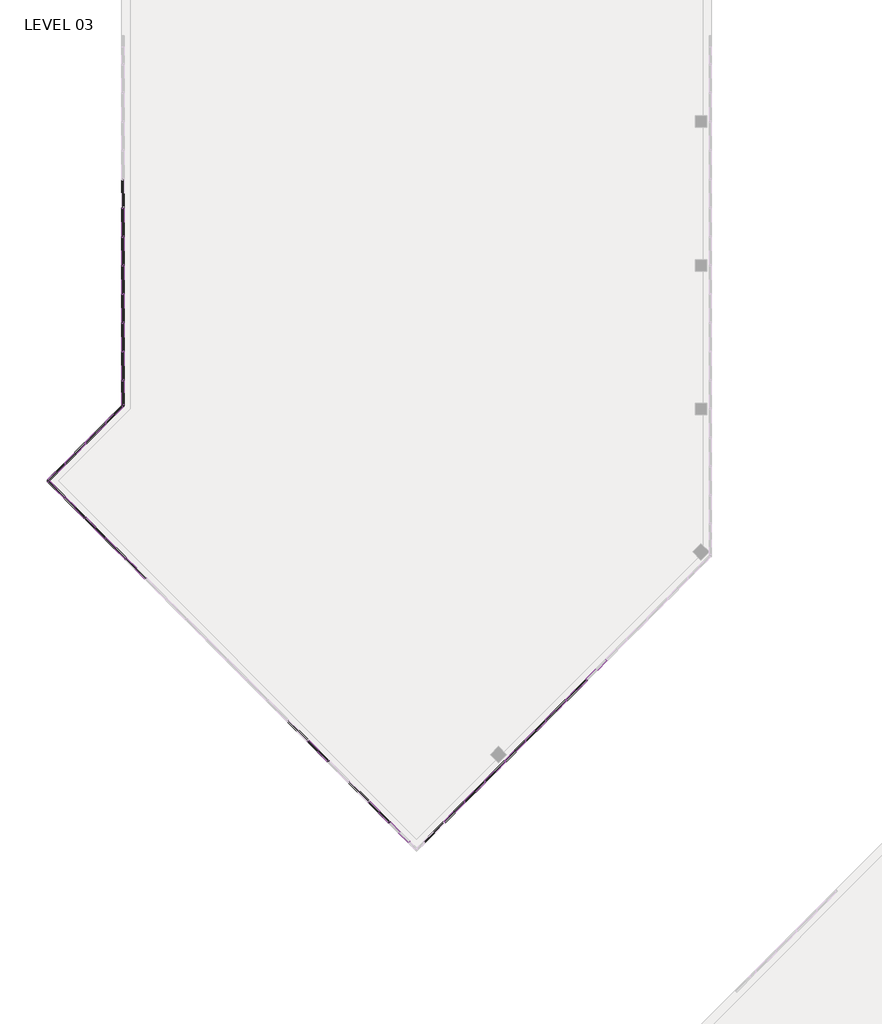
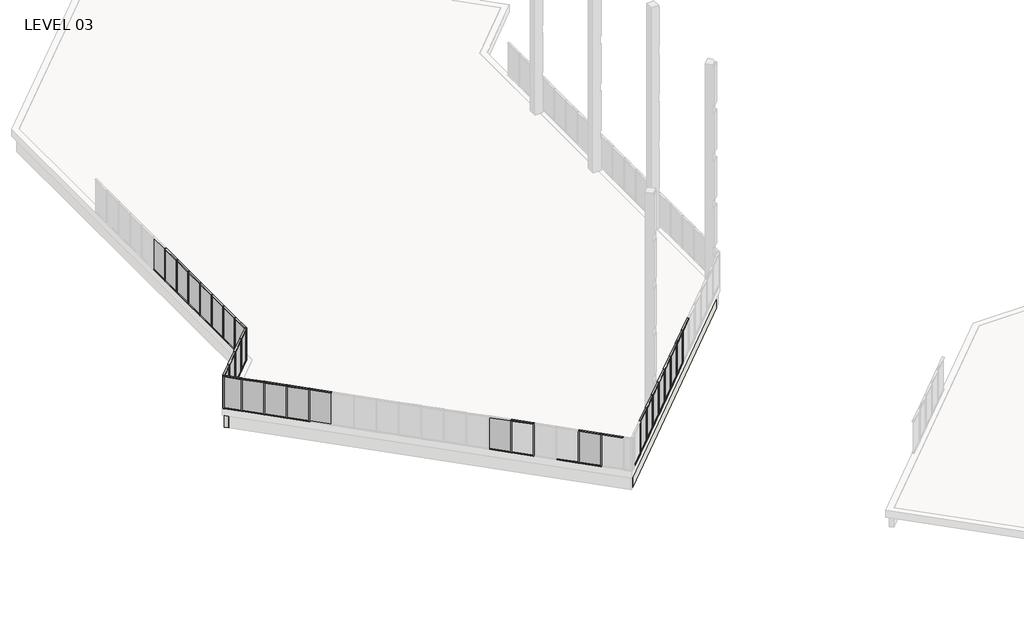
# One storey, part 3 of 18: 85 members, 26 plates, 2 walls.
"""IFC4 building model written with IfcOpenShell, lengths in millimetres."""

from ifc_helpers import new_model, si_unit, origin, place, context, project, spatial, faceted_brep, transform, mapped, element, save
from components import member_5247f267, member_e44af9ab, member_800970d4, member_45eb7f2e, member_53409b32, member_43bac76b, member_0b71a88d, plate_67294edd, plate_aaac5d3d, plate_048e4634, plate_9c66726c, plate_e0fd5134, plate_15429445, plate_0d1907f3, plate_903242d9

model = new_model("IFC4")

# Units and contexts
model_context = context("Model", 3, world=origin())
ifc_project = project(units=[si_unit("LENGTHUNIT", "METRE", prefix="MILLI")], contexts=[model_context])

# Site, building, storey
site = spatial("IfcSite", under=ifc_project)
building = spatial("IfcBuilding", under=site)
storey = spatial("IfcBuildingStorey", under=building, Name="LEVEL 03", Elevation=8280.4)

# Members
placement = place(None, origin())
member_shape = member_5247f267(model_context)
element("IfcMember", 1, ObjectType="Rectangular Mullion : 2\" x 4.5\" rectangular", at=placement, inside=storey, context=model_context, shape_type="MappedRepresentation", body=[
    mapped(member_shape, transform((-8176.5824051, 31737.5637642, 10871.2), x_axis=(0.0, 0.0, 1.0), y_axis=(-0.7071067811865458, 0.7071067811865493, 0.0), z_axis=(-0.7071067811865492, -0.7071067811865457, 0.0))),
])
element("IfcMember", 2, ObjectType="Rectangular Mullion : 2\" x 4.5\" rectangular", at=placement, inside=storey, context=model_context, shape_type="MappedRepresentation", body=[
    mapped(member_shape, transform((-9254.1983379, 30659.9478314, 10871.2), x_axis=(0.0, 0.0, 1.0), y_axis=(-0.7071067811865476, 0.7071067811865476, 0.0), z_axis=(-0.7071067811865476, -0.7071067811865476, 0.0))),
])
element("IfcMember", 3, ObjectType="Rectangular Mullion : 2\" x 4.5\" rectangular", at=placement, inside=storey, context=model_context, shape_type="MappedRepresentation", body=[
    mapped(member_shape, transform((-10331.8142707, 29582.3318986, 10871.2), x_axis=(0.0, 0.0, 1.0), y_axis=(-0.7071067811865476, 0.7071067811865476, 0.0), z_axis=(-0.7071067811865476, -0.7071067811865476, 0.0))),
])
element("IfcMember", 4, ObjectType="Rectangular Mullion : 2\" x 4.5\" rectangular", at=placement, inside=storey, context=model_context, shape_type="MappedRepresentation", body=[
    mapped(member_shape, transform((-11409.4302035, 28504.7159658, 10871.2), x_axis=(0.0, 0.0, 1.0), y_axis=(-0.7071067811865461, 0.707106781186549, 0.0), z_axis=(-0.707106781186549, -0.7071067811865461, 0.0))),
])
element("IfcMember", 5, ObjectType="Rectangular Mullion : 2\" x 4.5\" rectangular", at=placement, inside=storey, context=model_context, shape_type="MappedRepresentation", body=[
    mapped(member_shape, transform((-13564.6768709, 26349.4692984, 10871.2), x_axis=(0.0, 0.0, 1.0), y_axis=(-0.7071067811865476, 0.7071067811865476, 0.0), z_axis=(-0.7071067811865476, -0.7071067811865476, 0.0))),
])
element("IfcMember", 6, ObjectType="Rectangular Mullion : 2\" x 4.5\" rectangular", at=placement, inside=storey, context=model_context, shape_type="MappedRepresentation", body=[
    mapped(member_shape, transform((-19717.6908029, 25235.9175394, 10871.2), x_axis=(0.0, 0.0, 1.0), y_axis=(0.7071067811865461, 0.7071067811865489, 0.0), z_axis=(-0.7071067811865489, 0.7071067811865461, 0.0))),
])
element("IfcMember", 7, ObjectType="Rectangular Mullion : 2\" x 4.5\" rectangular", at=placement, inside=storey, context=model_context, shape_type="MappedRepresentation", body=[
    mapped(member_shape, transform((-22950.547272, 28468.7740085, 10871.2), x_axis=(0.0, 0.0, 1.0), y_axis=(0.7071067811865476, 0.7071067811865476, 0.0), z_axis=(-0.7071067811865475, 0.7071067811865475, 0.0))),
])
element("IfcMember", 8, ObjectType="Rectangular Mullion : 2\" x 4.5\" rectangular", at=placement, inside=storey, context=model_context, shape_type="MappedRepresentation", body=[
    mapped(member_shape, transform((-34789.2847655, 44248.423675, 10871.2), x_axis=(0.0, 0.0, 1.0), y_axis=(0.7071067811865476, -0.7071067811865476, 0.0), z_axis=(0.7071067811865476, 0.7071067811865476, 0.0))),
])
element("IfcMember", 9, ObjectType="Rectangular Mullion : 2\" x 4.5\" rectangular", at=placement, inside=storey, context=model_context, shape_type="MappedRepresentation", body=[
    mapped(member_shape, transform((-33711.654031, 45326.0544096, 10871.2), x_axis=(0.0, 0.0, 1.0), y_axis=(0.7071067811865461, -0.707106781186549, 0.0), z_axis=(0.7071067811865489, 0.707106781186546, 0.0))),
])
element("IfcMember", 10, ObjectType="Rectangular Mullion : 2\" x 4.5\" rectangular", at=placement, inside=storey, context=model_context, shape_type="MappedRepresentation", body=[
    mapped(member_shape, transform((-32784.0347164, 49110.5675885, 10871.2), x_axis=(0.0, 0.0, 1.0), y_axis=(1.0, 0.0, 0.0), z_axis=(0.0, 1.0, 0.0))),
])
element("IfcMember", 11, ObjectType="Rectangular Mullion : 2\" x 4.5\" rectangular", at=placement, inside=storey, context=model_context, shape_type="MappedRepresentation", body=[
    mapped(member_shape, transform((-32784.0347164, 50634.5675885, 10871.2), x_axis=(0.0, 0.0, 1.0), y_axis=(1.0, 0.0, 0.0), z_axis=(0.0, 1.0, 0.0))),
])
element("IfcMember", 12, ObjectType="Rectangular Mullion : 2\" x 4.5\" rectangular", at=placement, inside=storey, context=model_context, shape_type="MappedRepresentation", body=[
    mapped(member_shape, transform((-32784.0347164, 56730.5675885, 10871.2), x_axis=(0.0, 0.0, 1.0), y_axis=(1.0, 0.0, 0.0), z_axis=(0.0, 1.0, 0.0))),
])
element("IfcMember", 13, ObjectType="Rectangular Mullion : 2\" x 4.5\" rectangular", at=placement, inside=storey, context=model_context, shape_type="MappedRepresentation", body=[
    mapped(member_shape, transform((-32784.0347164, 52158.5675885, 10871.2), x_axis=(0.0, 0.0, 1.0), y_axis=(1.0, 0.0, 0.0), z_axis=(0.0, 1.0, 0.0))),
])
element("IfcMember", 14, ObjectType="Rectangular Mullion : 2\" x 4.5\" rectangular", at=placement, inside=storey, context=model_context, shape_type="MappedRepresentation", body=[
    mapped(member_shape, transform((-32784.0347164, 55206.5675885, 10871.2), x_axis=(0.0, 0.0, 1.0), y_axis=(1.0, 0.0, 0.0), z_axis=(0.0, 1.0, 0.0))),
])
element("IfcMember", 15, ObjectType="Rectangular Mullion : 2\" x 4.5\" rectangular", at=placement, inside=storey, context=model_context, shape_type="MappedRepresentation", body=[
    mapped(member_shape, transform((-32784.0347164, 53682.5675885, 10871.2), x_axis=(0.0, 0.0, 1.0), y_axis=(1.0, 0.0, 0.0), z_axis=(0.0, 1.0, 0.0))),
])
element("IfcMember", 16, ObjectType="Rectangular Mullion : 2\" x 4.5\" rectangular", at=placement, inside=storey, context=model_context, shape_type="MappedRepresentation", body=[
    mapped(member_shape, transform((-12487.0535372, 27427.0926321, 10871.2), x_axis=(0.0, 0.0, 1.0), y_axis=(-0.7071067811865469, 0.7071067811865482, 0.0), z_axis=(-0.7071067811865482, -0.7071067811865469, 0.0))),
])
element("IfcMember", 17, ObjectType="Rectangular Mullion : 2\" x 4.5\" rectangular", at=placement, inside=storey, context=model_context, shape_type="MappedRepresentation", body=[
    mapped(member_shape, transform((-14642.3076054, 25271.8385639, 10871.2), x_axis=(0.0, 0.0, 1.0), y_axis=(-0.7071067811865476, 0.7071067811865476, 0.0), z_axis=(-0.7071067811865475, -0.7071067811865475, 0.0))),
])
element("IfcMember", 18, ObjectType="Rectangular Mullion : 2\" x 4.5\" rectangular", at=placement, inside=storey, context=model_context, shape_type="MappedRepresentation", body=[
    mapped(member_shape, transform((-15719.9383399, 24194.2078294, 10871.2), x_axis=(0.0, 0.0, 1.0), y_axis=(-0.7071067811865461, 0.7071067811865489, 0.0), z_axis=(-0.7071067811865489, -0.7071067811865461, 0.0))),
])
element("IfcMember", 19, ObjectType="Rectangular Mullion : 2\" x 4.5\" rectangular", at=placement, inside=storey, context=model_context, shape_type="MappedRepresentation", body=[
    mapped(member_shape, transform((-18640.0600684, 24158.2868049, 10871.2), x_axis=(0.0, 0.0, 1.0), y_axis=(0.7071067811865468, 0.7071067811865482, 0.0), z_axis=(-0.7071067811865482, 0.7071067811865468, 0.0))),
])
element("IfcMember", 20, ObjectType="Rectangular Mullion : 2\" x 4.5\" rectangular", at=placement, inside=storey, context=model_context, shape_type="MappedRepresentation", body=[
    mapped(member_shape, transform((-32625.1316457, 38143.3583822, 10871.2), x_axis=(0.0, 0.0, 1.0), y_axis=(0.7071067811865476, 0.7071067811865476, 0.0), z_axis=(-0.7071067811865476, 0.7071067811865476, 0.0))),
])
element("IfcMember", 21, ObjectType="Rectangular Mullion : 2\" x 4.5\" rectangular", at=placement, inside=storey, context=model_context, shape_type="MappedRepresentation", body=[
    mapped(member_shape, transform((-33702.7623802, 39220.9891167, 10871.2), x_axis=(0.0, 0.0, 1.0), y_axis=(0.7071067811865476, 0.7071067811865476, 0.0), z_axis=(-0.7071067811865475, 0.7071067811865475, 0.0))),
])
element("IfcMember", 22, ObjectType="Rectangular Mullion : 2\" x 4.5\" rectangular", at=placement, inside=storey, context=model_context, shape_type="MappedRepresentation", body=[
    mapped(member_shape, transform((-34780.3931147, 40298.6198512, 10871.2), x_axis=(0.0, 0.0, 1.0), y_axis=(0.7071067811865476, 0.7071067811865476, 0.0), z_axis=(-0.7071067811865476, 0.7071067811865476, 0.0))),
])
element("IfcMember", 23, ObjectType="Rectangular Mullion : 2\" x 4.5\" rectangular", at=placement, inside=storey, context=model_context, shape_type="MappedRepresentation", body=[
    mapped(member_shape, transform((-35858.0238493, 41376.2505858, 10871.2), x_axis=(0.0, 0.0, 1.0), y_axis=(0.7071067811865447, 0.7071067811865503, 0.0), z_axis=(-0.7071067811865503, 0.7071067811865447, 0.0))),
])
element("IfcMember", 24, ObjectType="Rectangular Mullion : 2\" x 4.5\" rectangular", at=placement, inside=storey, context=model_context, shape_type="MappedRepresentation", body=[
    mapped(member_shape, transform((-8212.5034296, 31701.6427397, 8280.4), x_axis=(0.0, 0.0, -1.0), y_axis=(-0.7071067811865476, 0.7071067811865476, 0.0), z_axis=(0.7071067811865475, 0.7071067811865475, 0.0))),
])
element("IfcMember", 25, ObjectType="Rectangular Mullion : 2\" x 4.5\" rectangular", at=placement, inside=storey, context=model_context, shape_type="MappedRepresentation", body=[
    mapped(member_shape, transform((-9290.1193624, 30624.0268069, 8280.4), x_axis=(0.0, 0.0, -1.0), y_axis=(-0.7071067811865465, 0.7071067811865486, 0.0), z_axis=(0.7071067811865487, 0.7071067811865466, 0.0))),
])
element("IfcMember", 26, ObjectType="Rectangular Mullion : 2\" x 4.5\" rectangular", at=placement, inside=storey, context=model_context, shape_type="MappedRepresentation", body=[
    mapped(member_shape, transform((-10367.7352952, 29546.4108741, 8280.4), x_axis=(0.0, 0.0, -1.0), y_axis=(-0.7071067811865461, 0.707106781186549, 0.0), z_axis=(0.707106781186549, 0.7071067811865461, 0.0))),
])
element("IfcMember", 27, ObjectType="Rectangular Mullion : 2\" x 4.5\" rectangular", at=placement, inside=storey, context=model_context, shape_type="MappedRepresentation", body=[
    mapped(member_shape, transform((-11445.351228, 28468.7949413, 8280.4), x_axis=(0.0, 0.0, -1.0), y_axis=(-0.7071067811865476, 0.7071067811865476, 0.0), z_axis=(0.7071067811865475, 0.7071067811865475, 0.0))),
])
element("IfcMember", 28, ObjectType="Rectangular Mullion : 2\" x 4.5\" rectangular", at=placement, inside=storey, context=model_context, shape_type="MappedRepresentation", body=[
    mapped(member_shape, transform((-13600.5978954, 26313.5482739, 8280.4), x_axis=(0.0, 0.0, -1.0), y_axis=(-0.7071067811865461, 0.7071067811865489, 0.0), z_axis=(0.7071067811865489, 0.7071067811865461, 0.0))),
])
element("IfcMember", 29, ObjectType="Rectangular Mullion : 2\" x 4.5\" rectangular", at=placement, inside=storey, context=model_context, shape_type="MappedRepresentation", body=[
    mapped(member_shape, transform((-19753.6118274, 25271.8385639, 8280.4), x_axis=(0.0, 0.0, -1.0), y_axis=(0.7071067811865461, 0.707106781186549, 0.0), z_axis=(0.7071067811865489, -0.707106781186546, 0.0))),
])
element("IfcMember", 30, ObjectType="Rectangular Mullion : 2\" x 4.5\" rectangular", at=placement, inside=storey, context=model_context, shape_type="MappedRepresentation", body=[
    mapped(member_shape, transform((-22986.4682965, 28504.6950329, 8280.4), x_axis=(0.0, 0.0, -1.0), y_axis=(0.7071067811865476, 0.7071067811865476, 0.0), z_axis=(0.7071067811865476, -0.7071067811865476, 0.0))),
])
element("IfcMember", 31, ObjectType="Rectangular Mullion : 2\" x 4.5\" rectangular", at=placement, inside=storey, context=model_context, shape_type="MappedRepresentation", body=[
    mapped(member_shape, transform((-34753.363741, 44284.3446995, 8280.4), x_axis=(0.0, 0.0, -1.0), y_axis=(0.7071067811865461, -0.707106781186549, 0.0), z_axis=(-0.7071067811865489, -0.707106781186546, 0.0))),
])
element("IfcMember", 32, ObjectType="Rectangular Mullion : 2\" x 4.5\" rectangular", at=placement, inside=storey, context=model_context, shape_type="MappedRepresentation", body=[
    mapped(member_shape, transform((-32784.0347164, 47637.3675885, 8280.4), x_axis=(0.0, 0.0, -1.0), y_axis=(1.0, 0.0, 0.0), z_axis=(0.0, -1.0, 0.0))),
])
element("IfcMember", 33, ObjectType="Rectangular Mullion : 2\" x 4.5\" rectangular", at=placement, inside=storey, context=model_context, shape_type="MappedRepresentation", body=[
    mapped(member_shape, transform((-32784.0347164, 49161.3675885, 8280.4), x_axis=(0.0, 0.0, -1.0), y_axis=(1.0, 0.0, 0.0), z_axis=(0.0, -1.0, 0.0))),
])
element("IfcMember", 34, ObjectType="Rectangular Mullion : 2\" x 4.5\" rectangular", at=placement, inside=storey, context=model_context, shape_type="MappedRepresentation", body=[
    mapped(member_shape, transform((-32784.0347164, 50685.3675885, 8280.4), x_axis=(0.0, 0.0, -1.0), y_axis=(1.0, 0.0, 0.0), z_axis=(0.0, -1.0, 0.0))),
])
element("IfcMember", 35, ObjectType="Rectangular Mullion : 2\" x 4.5\" rectangular", at=placement, inside=storey, context=model_context, shape_type="MappedRepresentation", body=[
    mapped(member_shape, transform((-32784.0347164, 56781.3675885, 8280.4), x_axis=(0.0, 0.0, -1.0), y_axis=(1.0, 0.0, 0.0), z_axis=(0.0, -1.0, 0.0))),
])
element("IfcMember", 36, ObjectType="Rectangular Mullion : 2\" x 4.5\" rectangular", at=placement, inside=storey, context=model_context, shape_type="MappedRepresentation", body=[
    mapped(member_shape, transform((-32784.0347164, 52209.3675885, 8280.4), x_axis=(0.0, 0.0, -1.0), y_axis=(1.0, 0.0, 0.0), z_axis=(0.0, -1.0, 0.0))),
])
element("IfcMember", 37, ObjectType="Rectangular Mullion : 2\" x 4.5\" rectangular", at=placement, inside=storey, context=model_context, shape_type="MappedRepresentation", body=[
    mapped(member_shape, transform((-32784.0347164, 55257.3675885, 8280.4), x_axis=(0.0, 0.0, -1.0), y_axis=(1.0, 0.0, 0.0), z_axis=(0.0, -1.0, 0.0))),
])
element("IfcMember", 38, ObjectType="Rectangular Mullion : 2\" x 4.5\" rectangular", at=placement, inside=storey, context=model_context, shape_type="MappedRepresentation", body=[
    mapped(member_shape, transform((-32784.0347164, 53733.3675885, 8280.4), x_axis=(0.0, 0.0, -1.0), y_axis=(1.0, 0.0, 0.0), z_axis=(0.0, -1.0, 0.0))),
])
element("IfcMember", 39, ObjectType="Rectangular Mullion : 2\" x 4.5\" rectangular", at=placement, inside=storey, context=model_context, shape_type="MappedRepresentation", body=[
    mapped(member_shape, transform((-12522.9745617, 27391.1716076, 8280.4), x_axis=(0.0, 0.0, -1.0), y_axis=(-0.7071067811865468, 0.7071067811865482, 0.0), z_axis=(0.7071067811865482, 0.7071067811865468, 0.0))),
])
element("IfcMember", 40, ObjectType="Rectangular Mullion : 2\" x 4.5\" rectangular", at=placement, inside=storey, context=model_context, shape_type="MappedRepresentation", body=[
    mapped(member_shape, transform((-14678.2286299, 25235.9175394, 8280.4), x_axis=(0.0, 0.0, -1.0), y_axis=(-0.7071067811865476, 0.7071067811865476, 0.0), z_axis=(0.7071067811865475, 0.7071067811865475, 0.0))),
])
element("IfcMember", 41, ObjectType="Rectangular Mullion : 2\" x 4.5\" rectangular", at=placement, inside=storey, context=model_context, shape_type="MappedRepresentation", body=[
    mapped(member_shape, transform((-15755.8593644, 24158.2868049, 8280.4), x_axis=(0.0, 0.0, -1.0), y_axis=(-0.7071067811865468, 0.7071067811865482, 0.0), z_axis=(0.7071067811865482, 0.7071067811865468, 0.0))),
])
element("IfcMember", 42, ObjectType="Rectangular Mullion : 2\" x 4.5\" rectangular", at=placement, inside=storey, context=model_context, shape_type="MappedRepresentation", body=[
    mapped(member_shape, transform((-18675.9810929, 24194.2078294, 8280.4), x_axis=(0.0, 0.0, -1.0), y_axis=(0.7071067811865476, 0.7071067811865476, 0.0), z_axis=(0.7071067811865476, -0.7071067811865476, 0.0))),
])
element("IfcMember", 43, ObjectType="Rectangular Mullion : 2\" x 4.5\" rectangular", at=placement, inside=storey, context=model_context, shape_type="MappedRepresentation", body=[
    mapped(member_shape, transform((-21908.8554292, 27427.0821657, 8280.4), x_axis=(0.0, 0.0, -1.0), y_axis=(0.7071067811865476, 0.7071067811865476, 0.0), z_axis=(0.7071067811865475, -0.7071067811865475, 0.0))),
])
element("IfcMember", 44, ObjectType="Rectangular Mullion : 2\" x 4.5\" rectangular", at=placement, inside=storey, context=model_context, shape_type="MappedRepresentation", body=[
    mapped(member_shape, transform((-32661.0526702, 38179.2794067, 8280.4), x_axis=(0.0, 0.0, -1.0), y_axis=(0.7071067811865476, 0.7071067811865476, 0.0), z_axis=(0.7071067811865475, -0.7071067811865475, 0.0))),
])
element("IfcMember", 45, ObjectType="Rectangular Mullion : 2\" x 4.5\" rectangular", at=placement, inside=storey, context=model_context, shape_type="MappedRepresentation", body=[
    mapped(member_shape, transform((-33738.6834047, 39256.9101412, 8280.4), x_axis=(0.0, 0.0, -1.0), y_axis=(0.7071067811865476, 0.7071067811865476, 0.0), z_axis=(0.7071067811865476, -0.7071067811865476, 0.0))),
])
element("IfcMember", 46, ObjectType="Rectangular Mullion : 2\" x 4.5\" rectangular", at=placement, inside=storey, context=model_context, shape_type="MappedRepresentation", body=[
    mapped(member_shape, transform((-34816.3141392, 40334.5408757, 8280.4), x_axis=(0.0, 0.0, -1.0), y_axis=(0.7071067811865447, 0.7071067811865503, 0.0), z_axis=(0.7071067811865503, -0.7071067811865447, 0.0))),
])
element("IfcMember", 47, ObjectType="Rectangular Mullion : 2\" x 4.5\" rectangular", at=placement, inside=storey, context=model_context, shape_type="MappedRepresentation", body=[
    mapped(member_shape, transform((-35830.9944756, 43206.713965, 8280.4), x_axis=(0.0, 0.0, -1.0), y_axis=(0.7071067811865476, -0.7071067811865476, 0.0), z_axis=(-0.7071067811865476, -0.7071067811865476, 0.0))),
])
member_2_shape = member_e44af9ab(model_context)
element("IfcMember", 48, ObjectType="Rectangular Mullion : 2\" x 4.5\" rectangular", at=placement, inside=storey, context=model_context, shape_type="MappedRepresentation", body=[
    mapped(member_2_shape, transform((-8194.5429174, 31719.6032519, 8280.4), x_axis=(-0.7071067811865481, -0.7071067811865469, 0.0), y_axis=(-0.7071067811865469, 0.7071067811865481, 0.0), z_axis=(0.0, 0.0, -1.0))),
])
element("IfcMember", 49, ObjectType="Rectangular Mullion : 2\" x 4.5\" rectangular", at=placement, inside=storey, context=model_context, shape_type="MappedRepresentation", body=[
    mapped(member_2_shape, transform((-9272.1588502, 30641.9873191, 8280.4), x_axis=(-0.7071067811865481, -0.7071067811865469, 0.0), y_axis=(-0.7071067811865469, 0.7071067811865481, 0.0), z_axis=(0.0, 0.0, -1.0))),
])
element("IfcMember", 50, ObjectType="Rectangular Mullion : 2\" x 4.5\" rectangular", at=placement, inside=storey, context=model_context, shape_type="MappedRepresentation", body=[
    mapped(member_2_shape, transform((-10349.774783, 29564.3713863, 8280.4), x_axis=(-0.7071067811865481, -0.7071067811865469, 0.0), y_axis=(-0.7071067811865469, 0.7071067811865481, 0.0), z_axis=(0.0, 0.0, -1.0))),
])
element("IfcMember", 51, ObjectType="Rectangular Mullion : 2\" x 4.5\" rectangular", at=placement, inside=storey, context=model_context, shape_type="MappedRepresentation", body=[
    mapped(member_2_shape, transform((-11427.3907158, 28486.7554535, 8280.4), x_axis=(-0.7071067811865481, -0.7071067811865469, 0.0), y_axis=(-0.7071067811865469, 0.7071067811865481, 0.0), z_axis=(0.0, 0.0, -1.0))),
])
element("IfcMember", 52, ObjectType="Rectangular Mullion : 2\" x 4.5\" rectangular", at=placement, inside=storey, context=model_context, shape_type="MappedRepresentation", body=[
    mapped(member_2_shape, transform((-13582.6373831, 26331.5087862, 8280.4), x_axis=(-0.7071067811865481, -0.7071067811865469, 0.0), y_axis=(-0.7071067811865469, 0.7071067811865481, 0.0), z_axis=(0.0, 0.0, -1.0))),
])
element("IfcMember", 53, ObjectType="Rectangular Mullion : 2\" x 4.5\" rectangular", at=placement, inside=storey, context=model_context, shape_type="MappedRepresentation", body=[
    mapped(member_2_shape, transform((-19735.6513152, 25253.8780517, 8280.4), x_axis=(-0.7071067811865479, 0.7071067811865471, 0.0), y_axis=(0.7071067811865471, 0.7071067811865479, 0.0), z_axis=(0.0, 0.0, -1.0))),
])
element("IfcMember", 54, ObjectType="Rectangular Mullion : 2\" x 4.5\" rectangular", at=placement, inside=storey, context=model_context, shape_type="MappedRepresentation", body=[
    mapped(member_2_shape, transform((-22968.5077842, 28486.7345207, 8280.4), x_axis=(-0.7071067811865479, 0.7071067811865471, 0.0), y_axis=(0.7071067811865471, 0.7071067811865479, 0.0), z_axis=(0.0, 0.0, -1.0))),
])
element("IfcMember", 55, ObjectType="Rectangular Mullion : 2\" x 4.5\" rectangular", at=placement, inside=storey, context=model_context, shape_type="MappedRepresentation", body=[
    mapped(member_2_shape, transform((-34771.3242533, 44266.3841873, 8280.4), x_axis=(0.7071067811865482, 0.7071067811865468, 0.0), y_axis=(0.7071067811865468, -0.7071067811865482, 0.0), z_axis=(0.0, 0.0, -1.0))),
])
element("IfcMember", 56, ObjectType="Rectangular Mullion : 2\" x 4.5\" rectangular", at=placement, inside=storey, context=model_context, shape_type="MappedRepresentation", body=[
    mapped(member_2_shape, transform((-33693.6935187, 45344.0149218, 8280.4), x_axis=(0.7071067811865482, 0.7071067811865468, 0.0), y_axis=(0.7071067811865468, -0.7071067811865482, 0.0), z_axis=(0.0, 0.0, -1.0))),
])
element("IfcMember", 57, ObjectType="Rectangular Mullion : 2\" x 4.5\" rectangular", at=placement, inside=storey, context=model_context, shape_type="MappedRepresentation", body=[
    mapped(member_2_shape, transform((-32784.0347164, 47611.9675885, 8280.4), x_axis=(0.0, 1.0, 0.0), y_axis=(1.0, 0.0, 0.0), z_axis=(0.0, 0.0, -1.0))),
])
element("IfcMember", 58, ObjectType="Rectangular Mullion : 2\" x 4.5\" rectangular", at=placement, inside=storey, context=model_context, shape_type="MappedRepresentation", body=[
    mapped(member_2_shape, transform((-32784.0347164, 49135.9675885, 8280.4), x_axis=(0.0, 1.0, 0.0), y_axis=(1.0, 0.0, 0.0), z_axis=(0.0, 0.0, -1.0))),
])
element("IfcMember", 59, ObjectType="Rectangular Mullion : 2\" x 4.5\" rectangular", at=placement, inside=storey, context=model_context, shape_type="MappedRepresentation", body=[
    mapped(member_2_shape, transform((-32784.0347164, 50659.9675885, 8280.4), x_axis=(0.0, 1.0, 0.0), y_axis=(1.0, 0.0, 0.0), z_axis=(0.0, 0.0, -1.0))),
])
element("IfcMember", 60, ObjectType="Rectangular Mullion : 2\" x 4.5\" rectangular", at=placement, inside=storey, context=model_context, shape_type="MappedRepresentation", body=[
    mapped(member_2_shape, transform((-32784.0347164, 56755.9675885, 8280.4), x_axis=(0.0, 1.0, 0.0), y_axis=(1.0, 0.0, 0.0), z_axis=(0.0, 0.0, -1.0))),
])
element("IfcMember", 61, ObjectType="Rectangular Mullion : 2\" x 4.5\" rectangular", at=placement, inside=storey, context=model_context, shape_type="MappedRepresentation", body=[
    mapped(member_2_shape, transform((-32784.0347164, 52183.9675885, 8280.4), x_axis=(0.0, 1.0, 0.0), y_axis=(1.0, 0.0, 0.0), z_axis=(0.0, 0.0, -1.0))),
])
element("IfcMember", 62, ObjectType="Rectangular Mullion : 2\" x 4.5\" rectangular", at=placement, inside=storey, context=model_context, shape_type="MappedRepresentation", body=[
    mapped(member_2_shape, transform((-32784.0347164, 55231.9675885, 8280.4), x_axis=(0.0, 1.0, 0.0), y_axis=(1.0, 0.0, 0.0), z_axis=(0.0, 0.0, -1.0))),
])
element("IfcMember", 63, ObjectType="Rectangular Mullion : 2\" x 4.5\" rectangular", at=placement, inside=storey, context=model_context, shape_type="MappedRepresentation", body=[
    mapped(member_2_shape, transform((-32784.0347164, 53707.9675885, 8280.4), x_axis=(0.0, 1.0, 0.0), y_axis=(1.0, 0.0, 0.0), z_axis=(0.0, 0.0, -1.0))),
])
element("IfcMember", 64, ObjectType="Rectangular Mullion : 2\" x 4.5\" rectangular", at=placement, inside=storey, context=model_context, shape_type="MappedRepresentation", body=[
    mapped(member_2_shape, transform((-12505.0140495, 27409.1321198, 8280.4), x_axis=(-0.7071067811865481, -0.7071067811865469, 0.0), y_axis=(-0.7071067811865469, 0.7071067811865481, 0.0), z_axis=(0.0, 0.0, -1.0))),
])
element("IfcMember", 65, ObjectType="Rectangular Mullion : 2\" x 4.5\" rectangular", at=placement, inside=storey, context=model_context, shape_type="MappedRepresentation", body=[
    mapped(member_2_shape, transform((-14660.2681176, 25253.8780517, 8280.4), x_axis=(-0.7071067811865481, -0.7071067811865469, 0.0), y_axis=(-0.7071067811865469, 0.7071067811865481, 0.0), z_axis=(0.0, 0.0, -1.0))),
])
element("IfcMember", 66, ObjectType="Rectangular Mullion : 2\" x 4.5\" rectangular", at=placement, inside=storey, context=model_context, shape_type="MappedRepresentation", body=[
    mapped(member_2_shape, transform((-15737.8988522, 24176.2473171, 8280.4), x_axis=(-0.7071067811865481, -0.7071067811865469, 0.0), y_axis=(-0.7071067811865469, 0.7071067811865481, 0.0), z_axis=(0.0, 0.0, -1.0))),
])
element("IfcMember", 67, ObjectType="Rectangular Mullion : 2\" x 4.5\" rectangular", at=placement, inside=storey, context=model_context, shape_type="MappedRepresentation", body=[
    mapped(member_2_shape, transform((-18658.0205806, 24176.2473171, 8280.4), x_axis=(-0.7071067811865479, 0.7071067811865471, 0.0), y_axis=(0.7071067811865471, 0.7071067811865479, 0.0), z_axis=(0.0, 0.0, -1.0))),
])
element("IfcMember", 68, ObjectType="Rectangular Mullion : 2\" x 4.5\" rectangular", at=placement, inside=storey, context=model_context, shape_type="MappedRepresentation", body=[
    mapped(member_2_shape, transform((-21890.894917, 27409.1216534, 8280.4), x_axis=(-0.7071067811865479, 0.7071067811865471, 0.0), y_axis=(0.7071067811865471, 0.7071067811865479, 0.0), z_axis=(0.0, 0.0, -1.0))),
])
element("IfcMember", 69, ObjectType="Rectangular Mullion : 2\" x 4.5\" rectangular", at=placement, inside=storey, context=model_context, shape_type="MappedRepresentation", body=[
    mapped(member_2_shape, transform((-32643.0921579, 38161.3188944, 8280.4), x_axis=(-0.7071067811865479, 0.7071067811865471, 0.0), y_axis=(0.7071067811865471, 0.7071067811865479, 0.0), z_axis=(0.0, 0.0, -1.0))),
])
element("IfcMember", 70, ObjectType="Rectangular Mullion : 2\" x 4.5\" rectangular", at=placement, inside=storey, context=model_context, shape_type="MappedRepresentation", body=[
    mapped(member_2_shape, transform((-33720.7228924, 39238.9496289, 8280.4), x_axis=(-0.7071067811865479, 0.7071067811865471, 0.0), y_axis=(0.7071067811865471, 0.7071067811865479, 0.0), z_axis=(0.0, 0.0, -1.0))),
])
element("IfcMember", 71, ObjectType="Rectangular Mullion : 2\" x 4.5\" rectangular", at=placement, inside=storey, context=model_context, shape_type="MappedRepresentation", body=[
    mapped(member_2_shape, transform((-34798.353627, 40316.5803635, 8280.4), x_axis=(-0.7071067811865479, 0.7071067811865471, 0.0), y_axis=(0.7071067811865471, 0.7071067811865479, 0.0), z_axis=(0.0, 0.0, -1.0))),
])
element("IfcMember", 72, ObjectType="Rectangular Mullion : 2\" x 4.5\" rectangular", at=placement, inside=storey, context=model_context, shape_type="MappedRepresentation", body=[
    mapped(member_2_shape, transform((-35875.9843615, 41394.211098, 8280.4), x_axis=(-0.7071067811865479, 0.7071067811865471, 0.0), y_axis=(0.7071067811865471, 0.7071067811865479, 0.0), z_axis=(0.0, 0.0, -1.0))),
])
element("IfcMember", 73, ObjectType="Rectangular Mullion : 2\" x 4.5\" rectangular", at=placement, inside=storey, context=model_context, shape_type="MappedRepresentation", body=[
    mapped(member_2_shape, transform((-35848.9549878, 43188.7534527, 8280.4), x_axis=(0.7071067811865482, 0.7071067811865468, 0.0), y_axis=(0.7071067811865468, -0.7071067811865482, 0.0), z_axis=(0.0, 0.0, -1.0))),
])
member_3_shape = member_800970d4(model_context)
element("IfcMember", 74, ObjectType="Rectangular Mullion : 2\" x 4.5\" rectangular", at=placement, inside=storey, context=model_context, shape_type="MappedRepresentation", body=[
    mapped(member_3_shape, transform((-36759.740852, 42277.9675885, 8280.4), x_axis=(-0.7071067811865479, 0.7071067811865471, 0.0), y_axis=(0.7071067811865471, 0.7071067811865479, 0.0), z_axis=(0.0, 0.0, -1.0))),
])
element("IfcMember", 75, ObjectType="Rectangular Mullion : 2\" x 4.5\" rectangular", at=placement, inside=storey, context=model_context, shape_type="MappedRepresentation", body=[
    mapped(member_3_shape, transform((-32784.0347164, 46253.6737241, 8280.4), x_axis=(0.7071067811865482, 0.7071067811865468, 0.0), y_axis=(0.7071067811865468, -0.7071067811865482, 0.0), z_axis=(0.0, 0.0, -1.0))),
])
element("IfcMember", 76, ObjectType="Rectangular Mullion : 2\" x 4.5\" rectangular", at=placement, inside=storey, context=model_context, shape_type="MappedRepresentation", body=[
    mapped(member_3_shape, transform((-36759.740852, 42277.9675885, 10871.2), x_axis=(-0.7071067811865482, -0.7071067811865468, 0.0), y_axis=(0.7071067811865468, -0.7071067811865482, 0.0), z_axis=(0.0, 0.0, 1.0))),
])
element("IfcMember", 77, ObjectType="Rectangular Mullion : 2\" x 4.5\" rectangular", at=placement, inside=storey, context=model_context, shape_type="MappedRepresentation", body=[
    mapped(member_3_shape, transform((-32784.0347164, 46253.6737241, 10871.2), x_axis=(0.0, -1.0, 0.0), y_axis=(1.0, 0.0, 0.0), z_axis=(0.0, 0.0, 1.0))),
])
member_4_shape = member_45eb7f2e(model_context)
element("IfcMember", 78, ObjectType="Rectangular Mullion : 2\" x 4.5\" rectangular", at=placement, inside=storey, context=model_context, shape_type="MappedRepresentation", body=[
    mapped(member_4_shape, transform((-32784.0347164, 47586.5675885, 10871.2), x_axis=(0.0, 0.0, 1.0), y_axis=(1.0, 0.0, 0.0), z_axis=(0.0, 1.0, 0.0))),
])
element("IfcMember", 79, ObjectType="Rectangular Mullion : 2\" x 4.5\" rectangular", at=placement, inside=storey, context=model_context, shape_type="MappedRepresentation", body=[
    mapped(member_4_shape, transform((-32784.0347164, 46304.4737241, 8280.4), x_axis=(0.0, 0.0, -1.0), y_axis=(1.0, 0.0, 0.0), z_axis=(0.0, -1.0, 0.0))),
])
member_5_shape = member_53409b32(model_context)
element("IfcMember", 80, ObjectType="Rectangular Mullion : 2\" x 4.5\" rectangular", at=placement, inside=storey, context=model_context, shape_type="MappedRepresentation", body=[
    mapped(member_5_shape, transform((-36723.8198275, 42242.046564, 10871.2), x_axis=(0.0, 0.0, 1.0), y_axis=(0.707106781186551, 0.707106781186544, 0.0), z_axis=(-0.707106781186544, 0.707106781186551, 0.0))),
])
element("IfcMember", 81, ObjectType="Rectangular Mullion : 2\" x 4.5\" rectangular", at=placement, inside=storey, context=model_context, shape_type="MappedRepresentation", body=[
    mapped(member_5_shape, transform((-35893.9448737, 41412.1716102, 8280.4), x_axis=(0.0, 0.0, -1.0), y_axis=(0.707106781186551, 0.707106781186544, 0.0), z_axis=(0.707106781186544, -0.707106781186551, 0.0))),
])
member_6_shape = member_43bac76b(model_context)
element("IfcMember", 82, ObjectType="Rectangular Mullion : 2\" x 4.5\" rectangular", at=placement, inside=storey, context=model_context, shape_type="MappedRepresentation", body=[
    mapped(member_6_shape, transform((-32819.9557409, 46217.7526997, 10871.2), x_axis=(0.0, 0.0, 1.0), y_axis=(0.7071067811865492, -0.7071067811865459, 0.0), z_axis=(0.7071067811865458, 0.7071067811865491, 0.0))),
])
member_7_shape = member_0b71a88d(model_context)
element("IfcMember", 83, ObjectType="Rectangular Mullion : 2\" x 4.5\" rectangular", at=placement, inside=storey, context=model_context, shape_type="MappedRepresentation", body=[
    mapped(member_7_shape, transform((-36723.8198275, 42313.888613, 8280.4), x_axis=(0.0, 0.0, -1.0), y_axis=(0.7071067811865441, -0.7071067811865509, 0.0), z_axis=(-0.7071067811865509, -0.7071067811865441, 0.0))),
])
element("IfcMember", 84, ObjectType="Rectangular Mullion : 2\" x 4.5\" rectangular", at=placement, inside=storey, context=model_context, shape_type="MappedRepresentation", body=[
    mapped(member_6_shape, transform((-33675.7330065, 45361.975434, 8280.4), x_axis=(0.0, 0.0, -1.0), y_axis=(0.7071067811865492, -0.7071067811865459, 0.0), z_axis=(-0.7071067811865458, -0.7071067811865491, 0.0))),
])
element("IfcMember", 85, ObjectType="Rectangular Mullion : 2\" x 4.5\" rectangular", at=placement, inside=storey, context=model_context, shape_type="MappedRepresentation", body=[
    mapped(member_7_shape, transform((-35866.9155, 43170.7929405, 10871.2), x_axis=(0.0, 0.0, 1.0), y_axis=(0.7071067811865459, -0.7071067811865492, 0.0), z_axis=(0.7071067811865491, 0.7071067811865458, 0.0))),
])

# Plates
plate_shape = plate_67294edd(model_context)
element("IfcPlate", 86, ObjectType="System Panel : 1/4\" Glass", at=placement, inside=storey, context=model_context, shape_type="MappedRepresentation", body=[
    mapped(plate_shape, transform((-14121.4527504, 25792.6934189, 8331.2), x_axis=(-0.7071067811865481, -0.7071067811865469, 0.0), y_axis=(0.7071067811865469, -0.7071067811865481, 0.0), z_axis=(0.0, 0.0, 1.0))),
])
element("IfcPlate", 87, ObjectType="System Panel : 1/4\" Glass", at=placement, inside=storey, context=model_context, shape_type="MappedRepresentation", body=[
    mapped(plate_shape, transform((-32104.2767907, 37622.5035271, 8331.2), x_axis=(-0.7071067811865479, 0.7071067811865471, 0.0), y_axis=(-0.7071067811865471, -0.7071067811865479, 0.0), z_axis=(0.0, 0.0, 1.0))),
])
element("IfcPlate", 88, ObjectType="System Panel : 1/4\" Glass", at=placement, inside=storey, context=model_context, shape_type="MappedRepresentation", body=[
    mapped(plate_shape, transform((-34232.508886, 44805.1995545, 8331.2), x_axis=(0.7071067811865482, 0.7071067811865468, 0.0), y_axis=(-0.7071067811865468, 0.7071067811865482, 0.0), z_axis=(0.0, 0.0, 1.0))),
])
element("IfcPlate", 89, ObjectType="System Panel : 1/4\" Glass", at=placement, inside=storey, context=model_context, shape_type="MappedRepresentation", body=[
    mapped(plate_shape, transform((-32784.0347164, 48373.9675885, 8331.2), x_axis=(0.0, 1.0, 0.0), y_axis=(-1.0, 0.0, 0.0), z_axis=(0.0, 0.0, 1.0))),
])
element("IfcPlate", 90, ObjectType="System Panel : 1/4\" Glass", at=placement, inside=storey, context=model_context, shape_type="MappedRepresentation", body=[
    mapped(plate_shape, transform((-32784.0347164, 49897.9675885, 8331.2), x_axis=(0.0, 1.0, 0.0), y_axis=(-1.0, 0.0, 0.0), z_axis=(0.0, 0.0, 1.0))),
])
element("IfcPlate", 91, ObjectType="System Panel : 1/4\" Glass", at=placement, inside=storey, context=model_context, shape_type="MappedRepresentation", body=[
    mapped(plate_shape, transform((-32784.0347164, 51421.9675885, 8331.2), x_axis=(0.0, 1.0, 0.0), y_axis=(-1.0, 0.0, 0.0), z_axis=(0.0, 0.0, 1.0))),
])
element("IfcPlate", 92, ObjectType="System Panel : 1/4\" Glass", at=placement, inside=storey, context=model_context, shape_type="MappedRepresentation", body=[
    mapped(plate_shape, transform((-32784.0347164, 57517.9675885, 8331.2), x_axis=(0.0, 1.0, 0.0), y_axis=(-1.0, 0.0, 0.0), z_axis=(0.0, 0.0, 1.0))),
])
element("IfcPlate", 93, ObjectType="System Panel : 1/4\" Glass", at=placement, inside=storey, context=model_context, shape_type="MappedRepresentation", body=[
    mapped(plate_shape, transform((-32784.0347164, 52945.9675885, 8331.2), x_axis=(0.0, 1.0, 0.0), y_axis=(-1.0, 0.0, 0.0), z_axis=(0.0, 0.0, 1.0))),
])
element("IfcPlate", 94, ObjectType="System Panel : 1/4\" Glass", at=placement, inside=storey, context=model_context, shape_type="MappedRepresentation", body=[
    mapped(plate_shape, transform((-32784.0347164, 55993.9675885, 8331.2), x_axis=(0.0, 1.0, 0.0), y_axis=(-1.0, 0.0, 0.0), z_axis=(0.0, 0.0, 1.0))),
])
element("IfcPlate", 95, ObjectType="System Panel : 1/4\" Glass", at=placement, inside=storey, context=model_context, shape_type="MappedRepresentation", body=[
    mapped(plate_shape, transform((-32784.0347164, 54469.9675885, 8331.2), x_axis=(0.0, 1.0, 0.0), y_axis=(-1.0, 0.0, 0.0), z_axis=(0.0, 0.0, 1.0))),
])
element("IfcPlate", 96, ObjectType="System Panel : 1/4\" Glass", at=placement, inside=storey, context=model_context, shape_type="MappedRepresentation", body=[
    mapped(plate_shape, transform((-15199.0834849, 24715.0626844, 8331.2), x_axis=(-0.7071067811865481, -0.7071067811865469, 0.0), y_axis=(0.7071067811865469, -0.7071067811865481, 0.0), z_axis=(0.0, 0.0, 1.0))),
])
element("IfcPlate", 97, ObjectType="System Panel : 1/4\" Glass", at=placement, inside=storey, context=model_context, shape_type="MappedRepresentation", body=[
    mapped(plate_shape, transform((-19196.8359479, 24715.0626844, 8331.2), x_axis=(-0.7071067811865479, 0.7071067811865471, 0.0), y_axis=(-0.7071067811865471, -0.7071067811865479, 0.0), z_axis=(0.0, 0.0, 1.0))),
])
element("IfcPlate", 98, ObjectType="System Panel : 1/4\" Glass", at=placement, inside=storey, context=model_context, shape_type="MappedRepresentation", body=[
    mapped(plate_shape, transform((-33181.9075252, 38700.1342617, 8331.2), x_axis=(-0.7071067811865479, 0.7071067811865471, 0.0), y_axis=(-0.7071067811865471, -0.7071067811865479, 0.0), z_axis=(0.0, 0.0, 1.0))),
])
element("IfcPlate", 99, ObjectType="System Panel : 1/4\" Glass", at=placement, inside=storey, context=model_context, shape_type="MappedRepresentation", body=[
    mapped(plate_shape, transform((-34259.5382597, 39777.7649962, 8331.2), x_axis=(-0.7071067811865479, 0.7071067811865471, 0.0), y_axis=(-0.7071067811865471, -0.7071067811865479, 0.0), z_axis=(0.0, 0.0, 1.0))),
])
element("IfcPlate", 100, ObjectType="System Panel : 1/4\" Glass", at=placement, inside=storey, context=model_context, shape_type="MappedRepresentation", body=[
    mapped(plate_shape, transform((-35337.1689942, 40855.3957307, 8331.2), x_axis=(-0.7071067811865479, 0.7071067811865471, 0.0), y_axis=(-0.7071067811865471, -0.7071067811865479, 0.0), z_axis=(0.0, 0.0, 1.0))),
])
element("IfcPlate", 101, ObjectType="System Panel : 1/4\" Glass", at=placement, inside=storey, context=model_context, shape_type="MappedRepresentation", body=[
    mapped(plate_shape, transform((-35310.1396205, 43727.56882, 8331.2), x_axis=(0.7071067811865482, 0.7071067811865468, 0.0), y_axis=(-0.7071067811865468, 0.7071067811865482, 0.0), z_axis=(0.0, 0.0, 1.0))),
])
plate_2_shape = plate_aaac5d3d(model_context)
element("IfcPlate", 102, ObjectType="System Panel : 1/4\" Glass", at=placement, inside=storey, context=model_context, shape_type="MappedRepresentation", body=[
    mapped(plate_2_shape, transform((-8733.3508838, 31180.7952855, 8331.2), x_axis=(-0.7071067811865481, -0.7071067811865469, 0.0), y_axis=(0.7071067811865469, -0.7071067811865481, 0.0), z_axis=(0.0, 0.0, 1.0))),
])
element("IfcPlate", 103, ObjectType="System Panel : 1/4\" Glass", at=placement, inside=storey, context=model_context, shape_type="MappedRepresentation", body=[
    mapped(plate_2_shape, transform((-9810.9668166, 30103.1793527, 8331.2), x_axis=(-0.7071067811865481, -0.7071067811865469, 0.0), y_axis=(0.7071067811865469, -0.7071067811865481, 0.0), z_axis=(0.0, 0.0, 1.0))),
])
element("IfcPlate", 104, ObjectType="System Panel : 1/4\" Glass", at=placement, inside=storey, context=model_context, shape_type="MappedRepresentation", body=[
    mapped(plate_2_shape, transform((-10888.5827494, 29025.5634199, 8331.2), x_axis=(-0.7071067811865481, -0.7071067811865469, 0.0), y_axis=(0.7071067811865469, -0.7071067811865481, 0.0), z_axis=(0.0, 0.0, 1.0))),
])
plate_3_shape = plate_048e4634(model_context)
element("IfcPlate", 105, ObjectType="System Panel : 1/4\" Glass", at=placement, inside=storey, context=model_context, shape_type="MappedRepresentation", body=[
    mapped(plate_3_shape, transform((-23507.3052842, 29025.5320207, 8331.2), x_axis=(-0.7071067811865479, 0.7071067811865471, 0.0), y_axis=(-0.7071067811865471, -0.7071067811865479, 0.0), z_axis=(0.0, 0.0, 1.0))),
])
plate_4_shape = plate_9c66726c(model_context)
element("IfcPlate", 106, ObjectType="System Panel : 1/4\" Glass", at=placement, inside=storey, context=model_context, shape_type="MappedRepresentation", body=[
    mapped(plate_4_shape, transform((-32784.0347164, 46945.5206563, 8331.2), x_axis=(0.0, 1.0, 0.0), y_axis=(-1.0, 0.0, 0.0), z_axis=(0.0, 0.0, 1.0))),
])
plate_5_shape = plate_e0fd5134(model_context)
element("IfcPlate", 107, ObjectType="System Panel : 1/4\" Glass", at=placement, inside=storey, context=model_context, shape_type="MappedRepresentation", body=[
    mapped(plate_5_shape, transform((-11966.2023826, 27947.9437867, 8331.2), x_axis=(-0.7071067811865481, -0.7071067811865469, 0.0), y_axis=(0.7071067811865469, -0.7071067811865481, 0.0), z_axis=(0.0, 0.0, 1.0))),
])
element("IfcPlate", 108, ObjectType="System Panel : 1/4\" Glass", at=placement, inside=storey, context=model_context, shape_type="MappedRepresentation", body=[
    mapped(plate_5_shape, transform((-13043.8257163, 26870.320453, 8331.2), x_axis=(-0.7071067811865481, -0.7071067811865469, 0.0), y_axis=(0.7071067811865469, -0.7071067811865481, 0.0), z_axis=(0.0, 0.0, 1.0))),
])
plate_6_shape = plate_15429445(model_context)
element("IfcPlate", 109, ObjectType="System Panel : 1/4\" Glass", at=placement, inside=storey, context=model_context, shape_type="MappedRepresentation", body=[
    mapped(plate_6_shape, transform((-36295.3676638, 42742.3407768, 8331.2), x_axis=(0.7071067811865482, 0.7071067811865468, 0.0), y_axis=(-0.7071067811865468, 0.7071067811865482, 0.0), z_axis=(0.0, 0.0, 1.0))),
])
plate_7_shape = plate_0d1907f3(model_context)
element("IfcPlate", 110, ObjectType="System Panel : 1/4\" Glass", at=placement, inside=storey, context=model_context, shape_type="MappedRepresentation", body=[
    mapped(plate_7_shape, transform((-33247.8443737, 45789.8640669, 8331.2), x_axis=(0.7071067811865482, 0.7071067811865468, 0.0), y_axis=(-0.7071067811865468, 0.7071067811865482, 0.0), z_axis=(0.0, 0.0, 1.0))),
])
plate_8_shape = plate_903242d9(model_context)
element("IfcPlate", 111, ObjectType="System Panel : 1/4\" Glass", at=placement, inside=storey, context=model_context, shape_type="MappedRepresentation", body=[
    mapped(plate_8_shape, transform((-36308.8823506, 41827.1090871, 8331.2), x_axis=(-0.7071067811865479, 0.7071067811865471, 0.0), y_axis=(-0.7071067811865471, -0.7071067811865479, 0.0), z_axis=(0.0, 0.0, 1.0))),
])

# Walls
element("IfcWall", 112, ObjectType="01-CONCRETE-12", at=placement, inside=storey, context=model_context, shape_type="Brep", body=[
    faceted_brep([(-32739.5847164, 46235.2619313, 6731.0), (-36696.8790592, 42277.9675885, 6731.0), (-36696.8790592, 42277.9675885, 7721.6), (-32739.5847164, 46235.2619313, 7721.6), (-32739.5847164, 45804.2096375, 6731.0), (-32739.5847164, 45804.2096375, 7721.6), (-36265.8267654, 42277.9675885, 7721.6), (-36481.3529123, 42062.4414416, 7721.6), (-36481.3529123, 42062.4414416, 6731.0), (-36265.8267654, 42277.9675885, 6731.0)], [[[0, 1, 2, 3]], [[4, 5, 6, 7, 8, 9]], [[1, 0, 4, 9, 8]], [[3, 2, 7, 6, 5]], [[0, 3, 5, 4]], [[2, 1, 8, 7]]]),
])
element("IfcWall", 113, ObjectType="01-CONCRETE-12", at=placement, inside=storey, context=model_context, shape_type="Brep", body=[
    faceted_brep([(-16982.4335695, 22994.5743926, 6731.0), (-1961.1347164, 38015.8732457, 6731.0), (-1961.1347164, 38015.8732457, 7721.6), (-16982.4335695, 22994.5743926, 7721.6), (-17197.9597164, 23210.1005396, 6731.0), (-17197.9597164, 23210.1005396, 7721.6), (-7668.7886919, 32739.271564, 7721.6), (-7059.1886919, 33348.871564, 7721.6), (-2310.5716429, 38097.488613, 7721.6), (-1961.1347164, 38446.9255396, 7721.6), (-1961.1347164, 38446.9255396, 6731.0), (-2310.5716429, 38097.488613, 6731.0), (-7059.1886919, 33348.871564, 6731.0), (-7668.7886919, 32739.271564, 6731.0)], [[[0, 1, 2, 3]], [[4, 5, 6, 7, 8, 9, 10, 11, 12, 13]], [[1, 0, 4, 13, 12, 11, 10]], [[3, 2, 9, 8, 7, 6, 5]], [[0, 3, 5, 4]], [[2, 1, 10, 9]]]),
])

save(model, "model.ifc")
